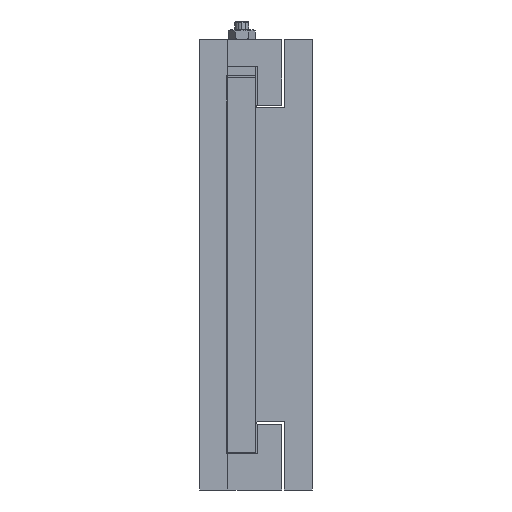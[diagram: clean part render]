
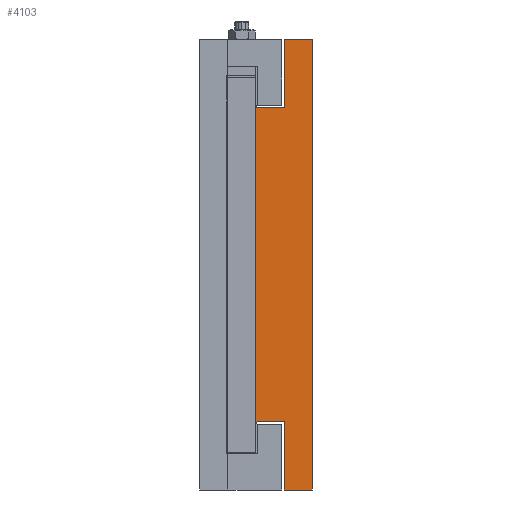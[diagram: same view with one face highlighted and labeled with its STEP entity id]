
A CAD part, left-side view. The second image highlights one B-rep face of the part: STEP entity #4103.
In plain terms, the highlighted planar face has unit normal (-1, 0, 0).
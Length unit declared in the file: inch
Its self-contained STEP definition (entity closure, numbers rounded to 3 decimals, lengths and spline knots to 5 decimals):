
#1921 = DIRECTION ( 'NONE',  ( 0., 0., -1. ) ) ;
#1922 = VECTOR ( 'NONE', #1921, 39.37008 ) ;
#1927 = CARTESIAN_POINT ( 'NONE',  ( 0., 0.75, 6. ) ) ;
#1930 = LINE ( 'NONE', #1927, #1922 ) ;
#3060 = CARTESIAN_POINT ( 'NONE',  ( 0., 0.75, 6. ) ) ;
#3079 = CARTESIAN_POINT ( 'NONE',  ( 0., 0., 6. ) ) ;
#3091 = DIRECTION ( 'NONE',  ( 0., 0., -1. ) ) ;
#3092 = VECTOR ( 'NONE', #3091, 39.37008 ) ;
#3093 = DIRECTION ( 'NONE',  ( 0., -1., 0. ) ) ;
#3094 = VECTOR ( 'NONE', #3093, 39.37008 ) ;
#3095 = CARTESIAN_POINT ( 'NONE',  ( 0., 1.5, 6. ) ) ;
#3099 = DIRECTION ( 'NONE',  ( 0., 1., 0. ) ) ;
#3100 = VECTOR ( 'NONE', #3099, 39.37008 ) ;
#3101 = CARTESIAN_POINT ( 'NONE',  ( 0., 1.5, 4.1875 ) ) ;
#3102 = LINE ( 'NONE', #3101, #3100 ) ;
#3103 = LINE ( 'NONE', #3095, #3094 ) ;
#3110 = LINE ( 'NONE', #3079, #3092 ) ;
#4054 = VERTEX_POINT ( 'NONE', #6673 ) ;
#4061 = VERTEX_POINT ( 'NONE', #6675 ) ;
#4069 = EDGE_CURVE ( 'NONE', #4061, #4054, #6711, .T. ) ;
#4085 = EDGE_CURVE ( 'NONE', #4365, #4359, #6731, .T. ) ;
#4086 = ORIENTED_EDGE ( 'NONE', *, *, #4342, .T. ) ;
#4087 = ORIENTED_EDGE ( 'NONE', *, *, #7422, .F. ) ;
#4090 = EDGE_CURVE ( 'NONE', #4091, #4359, #6743, .T. ) ;
#4091 = VERTEX_POINT ( 'NONE', #6727 ) ;
#4095 = EDGE_LOOP ( 'NONE', ( #4086, #4096, #7420, #7425, #4087, #7419, #7356, #4364 ) ) ;
#4096 = ORIENTED_EDGE ( 'NONE', *, *, #4085, .T. ) ;
#4103 = ADVANCED_FACE ( 'NONE', ( #6723 ), #6749, .F. ) ;
#4109 = VERTEX_POINT ( 'NONE', #6772 ) ;
#4342 = EDGE_CURVE ( 'NONE', #4061, #4365, #7174, .T. ) ;
#4359 = VERTEX_POINT ( 'NONE', #7234 ) ;
#4361 = VERTEX_POINT ( 'NONE', #7228 ) ;
#4364 = ORIENTED_EDGE ( 'NONE', *, *, #4069, .F. ) ;
#4365 = VERTEX_POINT ( 'NONE', #7223 ) ;
#5215 = EDGE_CURVE ( 'NONE', #7421, #4109, #1930, .T. ) ;
#6673 = CARTESIAN_POINT ( 'NONE',  ( 0., 1.5, 4.1875 ) ) ;
#6675 = CARTESIAN_POINT ( 'NONE',  ( 0., 1.5, -4.1875 ) ) ;
#6707 = DIRECTION ( 'NONE',  ( 0., 0., 1. ) ) ;
#6708 = VECTOR ( 'NONE', #6707, 39.37008 ) ;
#6710 = CARTESIAN_POINT ( 'NONE',  ( 0., 1.5, 6. ) ) ;
#6711 = LINE ( 'NONE', #6710, #6708 ) ;
#6723 = FACE_OUTER_BOUND ( 'NONE', #4095, .T. ) ;
#6726 = DIRECTION ( 'NONE',  ( 0., 1., 0. ) ) ;
#6727 = CARTESIAN_POINT ( 'NONE',  ( 0., 0., -6. ) ) ;
#6728 = DIRECTION ( 'NONE',  ( 0., 0., -1. ) ) ;
#6729 = VECTOR ( 'NONE', #6728, 39.37008 ) ;
#6730 = CARTESIAN_POINT ( 'NONE',  ( 0., 0.75, -6. ) ) ;
#6731 = LINE ( 'NONE', #6730, #6729 ) ;
#6741 = VECTOR ( 'NONE', #6726, 39.37008 ) ;
#6742 = CARTESIAN_POINT ( 'NONE',  ( 0., 1.5, -6. ) ) ;
#6743 = LINE ( 'NONE', #6742, #6741 ) ;
#6749 = PLANE ( 'NONE',  #6778 ) ;
#6772 = CARTESIAN_POINT ( 'NONE',  ( 0., 0.75, 4.1875 ) ) ;
#6775 = DIRECTION ( 'NONE',  ( 0., 0., -1. ) ) ;
#6776 = DIRECTION ( 'NONE',  ( 1., 0., 0. ) ) ;
#6777 = CARTESIAN_POINT ( 'NONE',  ( 0., 0., 6. ) ) ;
#6778 = AXIS2_PLACEMENT_3D ( 'NONE', #6777, #6776, #6775 ) ;
#7173 = CARTESIAN_POINT ( 'NONE',  ( 0., 1.5, -4.1875 ) ) ;
#7174 = LINE ( 'NONE', #7173, #7216 ) ;
#7215 = DIRECTION ( 'NONE',  ( 0., -1., 0. ) ) ;
#7216 = VECTOR ( 'NONE', #7215, 39.37008 ) ;
#7223 = CARTESIAN_POINT ( 'NONE',  ( 0., 0.75, -4.1875 ) ) ;
#7228 = CARTESIAN_POINT ( 'NONE',  ( 0., 0., 6. ) ) ;
#7234 = CARTESIAN_POINT ( 'NONE',  ( 0., 0.75, -6. ) ) ;
#7356 = ORIENTED_EDGE ( 'NONE', *, *, #7417, .T. ) ;
#7417 = EDGE_CURVE ( 'NONE', #4109, #4054, #3102, .T. ) ;
#7419 = ORIENTED_EDGE ( 'NONE', *, *, #5215, .T. ) ;
#7420 = ORIENTED_EDGE ( 'NONE', *, *, #4090, .F. ) ;
#7421 = VERTEX_POINT ( 'NONE', #3060 ) ;
#7422 = EDGE_CURVE ( 'NONE', #7421, #4361, #3103, .T. ) ;
#7423 = EDGE_CURVE ( 'NONE', #4361, #4091, #3110, .T. ) ;
#7425 = ORIENTED_EDGE ( 'NONE', *, *, #7423, .F. ) ;
